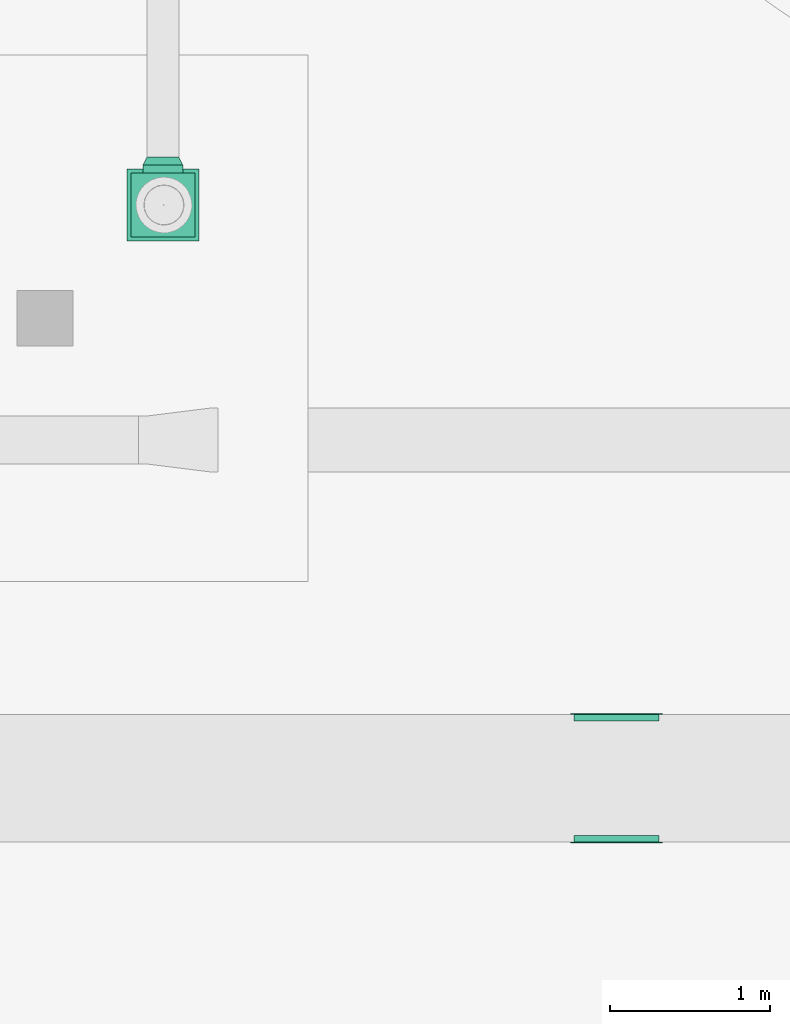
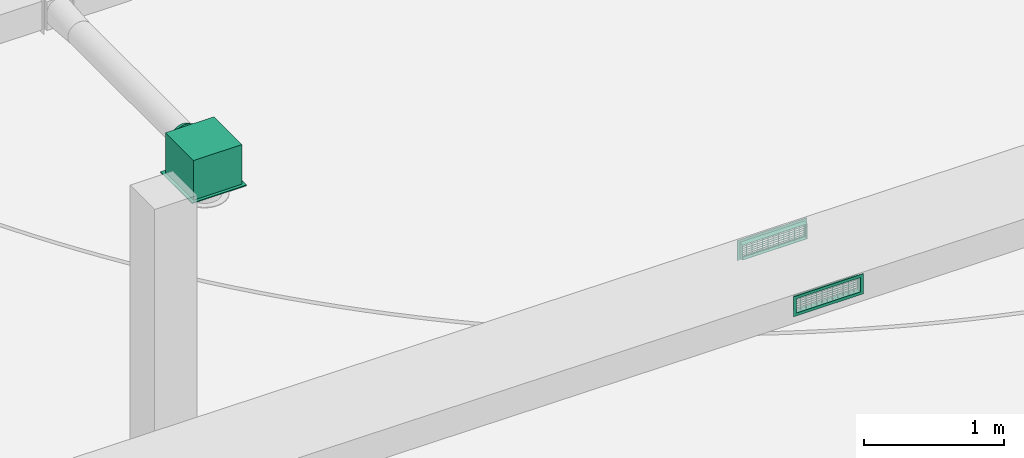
# One storey, part 271 of 302: 3 flow terminals, 1 flow fitting.
"""IFC2X3 building model written with IfcOpenShell, lengths in metres."""

from ifc_helpers import new_model, entity, si_unit, converted_unit, derived_unit, direction, frame, frame_2d, origin, origin_2d_with_axis, place, context, subcontext, project, spatial, polyline, circle_curve, parameter, trimmed, segment, composite_curve, rectangle, circle, outline, extrude, faceted_brep, source, transform, mapped, material, material_list, type_object, type_shapes, element, save


model = new_model("IFC2X3")

# Units and contexts
model_context = context("Model", 3, precision=1e-05, world=origin(), true_north=direction((6.12303176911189e-17, 1.0)))
body_context = subcontext(model_context, "Body", "Model", "MODEL_VIEW")
ifc_project = project(units=[si_unit("LENGTHUNIT", "METRE"), si_unit("AREAUNIT", "SQUARE_METRE"), si_unit("VOLUMEUNIT", "CUBIC_METRE"), converted_unit("PLANEANGLEUNIT", "DEGREE", entity("IfcRatioMeasure", 0.0174532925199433), si_unit("PLANEANGLEUNIT", "RADIAN"), dimensions=[0, 0, 0, 0, 0, 0, 0]), si_unit("MASSUNIT", "GRAM", prefix="KILO"), derived_unit("MASSDENSITYUNIT", [(si_unit("MASSUNIT", "GRAM", prefix="KILO"), 1), (si_unit("LENGTHUNIT", "METRE"), -3)]), derived_unit("MOMENTOFINERTIAUNIT", [(si_unit("LENGTHUNIT", "METRE"), 4)]), si_unit("TIMEUNIT", "SECOND"), si_unit("FREQUENCYUNIT", "HERTZ"), si_unit("THERMODYNAMICTEMPERATUREUNIT", "DEGREE_CELSIUS"), derived_unit("THERMALTRANSMITTANCEUNIT", [(si_unit("MASSUNIT", "GRAM", prefix="KILO"), 1), (si_unit("THERMODYNAMICTEMPERATUREUNIT", "KELVIN"), -1), (si_unit("TIMEUNIT", "SECOND"), -3)]), derived_unit("VOLUMETRICFLOWRATEUNIT", [(si_unit("LENGTHUNIT", "METRE"), 3), (si_unit("TIMEUNIT", "SECOND"), -1)]), si_unit("ELECTRICCURRENTUNIT", "AMPERE"), si_unit("ELECTRICVOLTAGEUNIT", "VOLT"), si_unit("POWERUNIT", "WATT"), si_unit("FORCEUNIT", "NEWTON", prefix="KILO"), si_unit("ILLUMINANCEUNIT", "LUX"), si_unit("LUMINOUSFLUXUNIT", "LUMEN"), si_unit("LUMINOUSINTENSITYUNIT", "CANDELA"), derived_unit("USERDEFINED", [(si_unit("MASSUNIT", "GRAM", prefix="KILO"), -1), (si_unit("LENGTHUNIT", "METRE"), -2), (si_unit("TIMEUNIT", "SECOND"), 3), (si_unit("LUMINOUSFLUXUNIT", "LUMEN"), 1)]), derived_unit("LINEARVELOCITYUNIT", [(si_unit("LENGTHUNIT", "METRE"), 1), (si_unit("TIMEUNIT", "SECOND"), -1)]), si_unit("PRESSUREUNIT", "PASCAL"), derived_unit("USERDEFINED", [(si_unit("LENGTHUNIT", "METRE"), -2), (si_unit("MASSUNIT", "GRAM", prefix="KILO"), 1), (si_unit("TIMEUNIT", "SECOND"), -2)]), derived_unit("LINEARFORCEUNIT", [(si_unit("MASSUNIT", "GRAM", prefix="KILO"), 1), (si_unit("LENGTHUNIT", "METRE"), 1), (si_unit("TIMEUNIT", "SECOND"), -2), (si_unit("LENGTHUNIT", "METRE"), -1)]), derived_unit("PLANARFORCEUNIT", [(si_unit("MASSUNIT", "GRAM", prefix="KILO"), 1), (si_unit("LENGTHUNIT", "METRE"), 1), (si_unit("TIMEUNIT", "SECOND"), -2), (si_unit("LENGTHUNIT", "METRE"), -2)])], contexts=[model_context])

# Site, building, storey
site_placement = place(None, origin())
site = spatial("IfcSite", under=ifc_project, at=site_placement, Name="Default", CompositionType="ELEMENT")
building_placement = place(site_placement, origin())
building = spatial("IfcBuilding", under=site, at=building_placement, CompositionType="ELEMENT")
storey_placement = place(building_placement, frame((0.0, 0.0, -1.3)))
storey = spatial("IfcBuildingStorey", under=building, at=storey_placement, Name="00_EG", CompositionType="ELEMENT", Elevation=-1.3)

# Flow fitting
ifc_material = material(Name="<Unnamed>")
duct_fitting_type = type_object("IfcDuctFittingType", Name="STR_RND_Transition:STR_Transition_RND_GS_EA", PredefinedType="NOTDEFINED", material=ifc_material)
shared_shape_1 = source(origin(), body_context, "Body", "Brep", [
    faceted_brep([(0.0500000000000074, -0.073473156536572, -0.1011271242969), (0.0500000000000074, -0.0386271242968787, -0.118882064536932), (0.0500000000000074, 0.0, -0.12500000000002), (0.0500000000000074, 0.0386271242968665, -0.11888206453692), (0.0500000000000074, 0.073473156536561, -0.101127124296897), (0.0500000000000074, 0.101127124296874, -0.0734731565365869), (0.0500000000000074, 0.1188820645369, -0.038627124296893), (0.0500000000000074, 0.124999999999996, 0.0), (0.0500000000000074, 0.118882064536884, 0.0386271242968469), (0.0500000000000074, 0.101127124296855, 0.073473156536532), (0.0500000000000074, 0.0734731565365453, 0.101127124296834), (0.0500000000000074, 0.0386271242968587, 0.118882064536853), (0.0500000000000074, 0.0, 0.12499999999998), (0.0500000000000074, -0.0386271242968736, 0.118882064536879), (0.0500000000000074, -0.0734731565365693, 0.101127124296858), (0.0500000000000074, -0.101127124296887, 0.0734731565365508), (0.0500000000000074, -0.118882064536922, 0.0386271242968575), (0.0500000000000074, -0.125000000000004, 0.0), (0.0500000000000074, -0.118882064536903, -0.0386271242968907), (0.0500000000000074, -0.101127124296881, -0.0734731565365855), (0.0, 0.0309016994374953, -0.0951056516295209), (0.0, 0.0, -0.100000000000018), (0.0, -0.0309016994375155, -0.0951056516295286), (0.0, -0.0587785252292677, -0.0809016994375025), (0.0, -0.0809016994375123, -0.0587785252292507), (0.0, -0.0951056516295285, -0.0309016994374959), (0.0, -0.100000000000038, 0.0), (0.0, -0.0951056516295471, 0.0309016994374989), (0.0, -0.0809016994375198, 0.0587785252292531), (0.0, -0.058778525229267, 0.0809016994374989), (0.0, -0.0309016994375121, 0.0951056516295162), (0.0, 0.0, 0.0999999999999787), (0.0, 0.0309016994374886, 0.0951056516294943), (0.0, 0.0587785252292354, 0.0809016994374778), (0.0, 0.0809016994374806, 0.0587785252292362), (0.0, 0.0951056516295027, 0.0309016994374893), (0.0, 0.0999999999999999, 0.0), (0.0, 0.0951056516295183, -0.0309016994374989), (0.0, 0.0809016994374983, -0.0587785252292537), (0.0, 0.0587785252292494, -0.0809016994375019)], [[[0, 1, 2, 3, 4, 5, 6, 7, 8, 9, 10, 11, 12, 13, 14, 15, 16, 17, 18, 19]], [[20, 21, 22, 23, 24, 25, 26, 27, 28, 29, 30, 31, 32, 33, 34, 35, 36, 37, 38, 39]], [[35, 34, 9, 8]], [[36, 35, 8, 7]], [[34, 33, 10, 9]], [[10, 33, 32, 11]], [[11, 32, 31, 12]], [[30, 29, 14, 13]], [[31, 30, 13, 12]], [[29, 28, 15, 14]], [[15, 28, 27, 16]], [[16, 27, 26, 17]], [[25, 24, 19, 18]], [[26, 25, 18, 17]], [[24, 23, 0, 19]], [[0, 23, 22, 1]], [[1, 22, 21, 2]], [[20, 39, 4, 3]], [[21, 20, 3, 2]], [[39, 38, 5, 4]], [[5, 38, 37, 6]], [[6, 37, 36, 7]]]),
])
type_shapes(duct_fitting_type, [shared_shape_1])
flow_fitting_placement = place(storey_placement, frame((-255.983284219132, 36.4181484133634, 4.90999999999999), z_axis=(0.0, 0.0, 1.0), x_axis=(0.0, -1.0, 0.0)))
element("IfcFlowFitting", 1, at=flow_fitting_placement, inside=storey, type_object=duct_fitting_type, material=ifc_material, Name="STR_RND_Transition:STR_Transition_RND_GS_EA", ObjectType="STR_RND_Transition:STR_Transition_RND_GS_EA", context=body_context, shape_type="MappedRepresentation", body=[
    mapped(shared_shape_1, transform((0.0, 0.0, 0.0), scale=1.0)),
])

# Flow terminals
ifc_material_list_1 = material_list([ifc_material, ifc_material, ifc_material])
air_terminal_type_1 = type_object("IfcAirTerminalType", Name="Drallauslass Zuluft seitlich:600 quadratisch", PredefinedType="NOTDEFINED", material=ifc_material_list_1)
shared_shape_2 = source(origin(), body_context, "Body", "SweptSolid", [
    extrude(rectangle(XDim=0.450000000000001, YDim=0.449999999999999, at=origin_2d_with_axis()), frame((0.0, 0.0, 2.692), z_axis=(0.0, 0.0, 1.0), x_axis=(0.0, 1.0, 0.0)), (0.0, 0.0, 1.0), 0.00800000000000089),
    extrude(circle(Radius=0.125, at=frame_2d((1.22275294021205e-18, -5.41433564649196e-16), x_axis=(1.0, 0.0))), frame((-0.25, 0.0, 2.89500000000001), z_axis=(1.0, 0.0, 0.0), x_axis=(0.0, -1.0, 0.0)), (0.0, 0.0, 1.0), 0.0499999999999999),
    extrude(rectangle(XDim=0.4, YDim=0.399999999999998, at=origin_2d_with_axis()), frame((0.0, 0.0, 2.7), z_axis=(0.0, 0.0, 1.0), x_axis=(0.0, 1.0, 0.0)), (0.0, 0.0, 1.0), 0.345000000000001),
])
type_shapes(air_terminal_type_1, [shared_shape_2])
flow_terminal_placement = place(storey_placement, frame((-255.983284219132, 36.1181484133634, 2.01499999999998), z_axis=(0.0, 0.0, 1.0), x_axis=(0.0, -1.0, 0.0)))
element("IfcFlowTerminal", 2, at=flow_terminal_placement, inside=storey, type_object=air_terminal_type_1, material=ifc_material, Name="Drallauslass Zuluft seitlich:600 quadratisch", ObjectType="Drallauslass Zuluft seitlich:600 quadratisch", context=body_context, shape_type="MappedRepresentation", body=[
    mapped(shared_shape_2, transform((0.0, 0.0, 0.0), scale=1.0)),
])
ifc_material_list_2 = material_list([ifc_material, ifc_material, ifc_material, ifc_material, ifc_material, ifc_material, ifc_material, ifc_material, ifc_material, ifc_material, ifc_material, ifc_material, ifc_material, ifc_material, ifc_material, ifc_material, ifc_material, ifc_material, ifc_material])
air_terminal_type_2 = type_object("IfcAirTerminalType", Name="Kanallüftungsgitter Abluft:525 x 125", PredefinedType="NOTDEFINED", material=ifc_material_list_2)
shared_shape_3 = source(origin(), body_context, "Body", "SweptSolid", [
    extrude(outline(composite_curve([segment(polyline([(-0.00289554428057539, -0.00148147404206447), (0.00423714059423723, -0.00148147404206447)]), True, "CONTINUOUS"), segment(polyline([(0.00423714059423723, -0.00148147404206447), (-0.00134159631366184, 0.00296294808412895)]), True, "CONTINUOUS"), segment(trimmed(circle_curve(frame_2d((-0.00255940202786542, 0.000894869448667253), x_axis=(0.330047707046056, 0.943964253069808)), 0.0024), [parameter(348.779604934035)], [parameter(191.220395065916)], True, "PARAMETER"), True, "CONTINUOUS")], self_intersect=False)), frame((-0.0293780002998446, -0.2625, 0.0446428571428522), z_axis=(0.0, 1.0, 0.0), x_axis=(-0.943964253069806, 0.0, 0.330047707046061)), (0.0, 0.0, 1.0), 0.525),
    extrude(outline(composite_curve([segment(polyline([(-0.00289554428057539, -0.00148147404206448), (0.00423714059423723, -0.00148147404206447)]), True, "CONTINUOUS"), segment(polyline([(0.00423714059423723, -0.00148147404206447), (-0.00134159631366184, 0.00296294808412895)]), True, "CONTINUOUS"), segment(trimmed(circle_curve(frame_2d((-0.00255940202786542, 0.000894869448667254), x_axis=(0.330047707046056, 0.943964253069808)), 0.0024), [parameter(348.779604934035)], [parameter(191.220395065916)], True, "PARAMETER"), True, "CONTINUOUS")], self_intersect=False)), frame((-0.0293780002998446, -0.2625, 0.0267857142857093), z_axis=(0.0, 1.0, 0.0), x_axis=(-0.943964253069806, 0.0, 0.330047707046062)), (0.0, 0.0, 1.0), 0.525),
    extrude(outline(composite_curve([segment(polyline([(-0.00289554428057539, -0.00148147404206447), (0.00423714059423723, -0.00148147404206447)]), True, "CONTINUOUS"), segment(polyline([(0.00423714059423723, -0.00148147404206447), (-0.00134159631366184, 0.00296294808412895)]), True, "CONTINUOUS"), segment(trimmed(circle_curve(frame_2d((-0.00255940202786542, 0.000894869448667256), x_axis=(0.330047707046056, 0.943964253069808)), 0.0024), [parameter(348.779604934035)], [parameter(191.220395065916)], True, "PARAMETER"), True, "CONTINUOUS")], self_intersect=False)), frame((-0.0293780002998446, -0.2625, 0.00892857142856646), z_axis=(0.0, 1.0, 0.0), x_axis=(-0.943964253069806, 0.0, 0.330047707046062)), (0.0, 0.0, 1.0), 0.525),
    extrude(outline(composite_curve([segment(polyline([(-0.00289554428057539, -0.00148147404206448), (0.00423714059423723, -0.00148147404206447)]), True, "CONTINUOUS"), segment(polyline([(0.00423714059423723, -0.00148147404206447), (-0.00134159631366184, 0.00296294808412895)]), True, "CONTINUOUS"), segment(trimmed(circle_curve(frame_2d((-0.00255940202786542, 0.000894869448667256), x_axis=(0.330047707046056, 0.943964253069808)), 0.0024), [parameter(348.779604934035)], [parameter(191.220395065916)], True, "PARAMETER"), True, "CONTINUOUS")], self_intersect=False)), frame((-0.0293780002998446, -0.2625, -0.00892857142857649), z_axis=(0.0, 1.0, 0.0), x_axis=(-0.943964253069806, 0.0, 0.330047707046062)), (0.0, 0.0, 1.0), 0.525),
    extrude(outline(composite_curve([segment(polyline([(-0.00289554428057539, -0.00148147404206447), (0.00423714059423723, -0.00148147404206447)]), True, "CONTINUOUS"), segment(polyline([(0.00423714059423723, -0.00148147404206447), (-0.00134159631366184, 0.00296294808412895)]), True, "CONTINUOUS"), segment(trimmed(circle_curve(frame_2d((-0.00255940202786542, 0.000894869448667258), x_axis=(0.330047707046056, 0.943964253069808)), 0.0024), [parameter(348.779604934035)], [parameter(191.220395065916)], True, "PARAMETER"), True, "CONTINUOUS")], self_intersect=False)), frame((-0.0293780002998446, -0.2625, -0.0267857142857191), z_axis=(0.0, 1.0, 0.0), x_axis=(-0.943964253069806, 0.0, 0.330047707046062)), (0.0, 0.0, 1.0), 0.525),
    extrude(outline(composite_curve([segment(polyline([(-0.00289554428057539, -0.00148147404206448), (0.00423714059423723, -0.00148147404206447)]), True, "CONTINUOUS"), segment(polyline([(0.00423714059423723, -0.00148147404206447), (-0.00134159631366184, 0.00296294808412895)]), True, "CONTINUOUS"), segment(trimmed(circle_curve(frame_2d((-0.00255940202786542, 0.000894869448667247), x_axis=(0.330047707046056, 0.943964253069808)), 0.0024), [parameter(348.779604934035)], [parameter(191.220395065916)], True, "PARAMETER"), True, "CONTINUOUS")], self_intersect=False)), frame((-0.0293780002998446, -0.2625, -0.0446428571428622), z_axis=(0.0, 1.0, 0.0), x_axis=(-0.943964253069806, 0.0, 0.330047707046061)), (0.0, 0.0, 1.0), 0.525),
    extrude(outline(composite_curve([segment(trimmed(circle_curve(frame_2d((0.0, -0.00271133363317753), x_axis=(1.0, 0.0)), 0.0024), [parameter(168.779604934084)], [parameter(11.2203950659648)], True, "PARAMETER"), True, "CONTINUOUS"), segment(polyline([(0.00235412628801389, -0.00224433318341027), (0.0, 0.00448866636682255)]), True, "CONTINUOUS"), segment(polyline([(0.0, 0.00448866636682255), (-0.00235412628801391, -0.00224433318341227)]), True, "CONTINUOUS")], self_intersect=False)), frame((-0.0160446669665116, 0.218750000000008, -0.0625), z_axis=(0.0, 0.0, 1.0), x_axis=(0.0, 1.0, 0.0)), (0.0, 0.0, 1.0), 0.125),
    extrude(outline(composite_curve([segment(trimmed(circle_curve(frame_2d((0.0, -0.00271133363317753), x_axis=(1.0, 0.0)), 0.0024), [parameter(168.779604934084)], [parameter(11.2203950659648)], True, "PARAMETER"), True, "CONTINUOUS"), segment(polyline([(0.00235412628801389, -0.00224433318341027), (0.0, 0.00448866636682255)]), True, "CONTINUOUS"), segment(polyline([(0.0, 0.00448866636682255), (-0.00235412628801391, -0.00224433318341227)]), True, "CONTINUOUS")], self_intersect=False)), frame((-0.0160446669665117, 0.175000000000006, -0.0625), z_axis=(0.0, 0.0, 1.0), x_axis=(0.0, 1.0, 0.0)), (0.0, 0.0, 1.0), 0.125),
    extrude(outline(composite_curve([segment(trimmed(circle_curve(frame_2d((0.0, -0.00271133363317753), x_axis=(1.0, 0.0)), 0.0024), [parameter(168.779604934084)], [parameter(11.2203950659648)], True, "PARAMETER"), True, "CONTINUOUS"), segment(polyline([(0.00235412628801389, -0.00224433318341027), (0.0, 0.00448866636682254)]), True, "CONTINUOUS"), segment(polyline([(0.0, 0.00448866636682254), (-0.00235412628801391, -0.00224433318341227)]), True, "CONTINUOUS")], self_intersect=False)), frame((-0.0160446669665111, 0.131250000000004, -0.0625), z_axis=(0.0, 0.0, 1.0), x_axis=(0.0, 1.0, 0.0)), (0.0, 0.0, 1.0), 0.125),
    extrude(outline(composite_curve([segment(trimmed(circle_curve(frame_2d((0.0, -0.00271133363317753), x_axis=(1.0, 0.0)), 0.0024), [parameter(168.779604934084)], [parameter(11.2203950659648)], True, "PARAMETER"), True, "CONTINUOUS"), segment(polyline([(0.00235412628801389, -0.00224433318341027), (0.0, 0.00448866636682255)]), True, "CONTINUOUS"), segment(polyline([(0.0, 0.00448866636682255), (-0.0023541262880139, -0.00224433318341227)]), True, "CONTINUOUS")], self_intersect=False)), frame((-0.0160446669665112, 0.0875000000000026, -0.0624999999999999), z_axis=(0.0, 0.0, 1.0), x_axis=(0.0, 1.0, 0.0)), (0.0, 0.0, 1.0), 0.125),
    extrude(outline(composite_curve([segment(trimmed(circle_curve(frame_2d((0.0, -0.00271133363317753), x_axis=(1.0, 0.0)), 0.0024), [parameter(168.779604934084)], [parameter(11.2203950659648)], True, "PARAMETER"), True, "CONTINUOUS"), segment(polyline([(0.00235412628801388, -0.00224433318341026), (0.0, 0.00448866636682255)]), True, "CONTINUOUS"), segment(polyline([(0.0, 0.00448866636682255), (-0.00235412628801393, -0.00224433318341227)]), True, "CONTINUOUS")], self_intersect=False)), frame((-0.0160446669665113, 0.0437500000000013, -0.0624999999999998), z_axis=(0.0, 0.0, 1.0), x_axis=(0.0, 1.0, 0.0)), (0.0, 0.0, 1.0), 0.125),
    extrude(outline(composite_curve([segment(trimmed(circle_curve(frame_2d((0.0, -0.00271133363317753), x_axis=(1.0, 0.0)), 0.0024), [parameter(168.779604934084)], [parameter(11.2203950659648)], True, "PARAMETER"), True, "CONTINUOUS"), segment(polyline([(0.00235412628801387, -0.00224433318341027), (0.0, 0.00448866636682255)]), True, "CONTINUOUS"), segment(polyline([(0.0, 0.00448866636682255), (-0.00235412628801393, -0.00224433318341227)]), True, "CONTINUOUS")], self_intersect=False)), frame((-0.0160446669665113, 0.0, -0.0624999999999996), z_axis=(0.0, 0.0, 1.0), x_axis=(0.0, 1.0, 0.0)), (0.0, 0.0, 1.0), 0.125),
    extrude(outline(composite_curve([segment(trimmed(circle_curve(frame_2d((0.0, -0.00271133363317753), x_axis=(1.0, 0.0)), 0.0024), [parameter(168.779604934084)], [parameter(11.2203950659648)], True, "PARAMETER"), True, "CONTINUOUS"), segment(polyline([(0.00235412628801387, -0.00224433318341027), (0.0, 0.00448866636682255)]), True, "CONTINUOUS"), segment(polyline([(0.0, 0.00448866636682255), (-0.00235412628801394, -0.00224433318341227)]), True, "CONTINUOUS")], self_intersect=False)), frame((-0.0160446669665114, -0.0437499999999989, -0.0624999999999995), z_axis=(0.0, 0.0, 1.0), x_axis=(0.0, 1.0, 0.0)), (0.0, 0.0, 1.0), 0.125),
    extrude(outline(composite_curve([segment(trimmed(circle_curve(frame_2d((0.0, -0.00271133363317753), x_axis=(1.0, 0.0)), 0.0024), [parameter(168.779604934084)], [parameter(11.2203950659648)], True, "PARAMETER"), True, "CONTINUOUS"), segment(polyline([(0.00235412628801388, -0.00224433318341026), (0.0, 0.00448866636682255)]), True, "CONTINUOUS"), segment(polyline([(0.0, 0.00448866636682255), (-0.00235412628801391, -0.00224433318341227)]), True, "CONTINUOUS")], self_intersect=False)), frame((-0.0160446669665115, -0.0874999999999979, -0.0624999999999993), z_axis=(0.0, 0.0, 1.0), x_axis=(0.0, 1.0, 0.0)), (0.0, 0.0, 1.0), 0.125),
    extrude(outline(composite_curve([segment(trimmed(circle_curve(frame_2d((0.0, -0.00271133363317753), x_axis=(1.0, 0.0)), 0.0024), [parameter(168.779604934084)], [parameter(11.2203950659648)], True, "PARAMETER"), True, "CONTINUOUS"), segment(polyline([(0.00235412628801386, -0.00224433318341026), (0.0, 0.00448866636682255)]), True, "CONTINUOUS"), segment(polyline([(0.0, 0.00448866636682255), (-0.00235412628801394, -0.00224433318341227)]), True, "CONTINUOUS")], self_intersect=False)), frame((-0.0160446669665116, -0.131249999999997, -0.0624999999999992), z_axis=(0.0, 0.0, 1.0), x_axis=(0.0, 1.0, 0.0)), (0.0, 0.0, 1.0), 0.125),
    extrude(outline(composite_curve([segment(trimmed(circle_curve(frame_2d((0.0, -0.00271133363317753), x_axis=(1.0, 0.0)), 0.0024), [parameter(168.779604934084)], [parameter(11.2203950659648)], True, "PARAMETER"), True, "CONTINUOUS"), segment(polyline([(0.00235412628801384, -0.00224433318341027), (0.0, 0.00448866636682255)]), True, "CONTINUOUS"), segment(polyline([(0.0, 0.00448866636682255), (-0.00235412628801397, -0.00224433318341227)]), True, "CONTINUOUS")], self_intersect=False)), frame((-0.0160446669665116, -0.174999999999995, -0.062499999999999), z_axis=(0.0, 0.0, 1.0), x_axis=(0.0, 1.0, 0.0)), (0.0, 0.0, 1.0), 0.125),
    extrude(outline(composite_curve([segment(trimmed(circle_curve(frame_2d((0.0, -0.00271133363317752), x_axis=(1.0, 0.0)), 0.0024), [parameter(168.779604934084)], [parameter(11.2203950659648)], True, "PARAMETER"), True, "CONTINUOUS"), segment(polyline([(0.00235412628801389, -0.00224433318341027), (0.0, 0.00448866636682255)]), True, "CONTINUOUS"), segment(polyline([(0.0, 0.00448866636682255), (-0.00235412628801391, -0.00224433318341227)]), True, "CONTINUOUS")], self_intersect=False)), frame((-0.0160446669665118, -0.218749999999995, -0.0624999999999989), z_axis=(0.0, 0.0, 1.0), x_axis=(0.0, 1.0, 0.0)), (0.0, 0.0, 1.0), 0.125),
    extrude(outline(polyline([(-0.0665, -0.2665), (0.0665, -0.2665), (0.0665, 0.2665), (-0.0665, 0.2665), (-0.0665, -0.2665)]), holes=[polyline([(-0.0625000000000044, -0.2625), (-0.0625000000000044, 0.262499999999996), (0.062500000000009, 0.262499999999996), (0.062500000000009, -0.2625), (-0.0625000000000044, -0.2625)])]), frame((-0.04, 0.0, 0.0), z_axis=(1.0, 0.0, 0.0), x_axis=(0.0, 0.0, -1.0)), (0.0, 0.0, 1.0), 0.04),
    extrude(outline(polyline([(-0.0875, -0.2875), (0.0875, -0.2875), (0.0875, 0.2875), (-0.0875, 0.2875), (-0.0875, -0.2875)]), holes=[polyline([(-0.0625, -0.262499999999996), (-0.0625, 0.262500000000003), (0.0625000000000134, 0.262500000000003), (0.0625000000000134, -0.262499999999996), (-0.0625, -0.262499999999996)])]), frame((0.0, 0.0, 0.0), z_axis=(1.0, 0.0, 0.0), x_axis=(0.0, 0.0, -1.0)), (0.0, 0.0, 1.0), 0.005),
])
type_shapes(air_terminal_type_2, [shared_shape_3])
for number, where, z_axis, x_axis, name in (
    (3, (-253.140026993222, 32.9240784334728, 5.125), (0.0, 0.0, -1.0), (0.0, 1.0, 0.0), "Kanallüftungsgitter Abluft:525 x 125"),
    (4, (-253.140026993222, 32.1240784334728, 5.125), (0.0, 0.0, 1.0), (0.0, -1.0, 0.0), "Kanallüftungsgitter Abluft:525 x 125"),
):
    element("IfcFlowTerminal", number, at=place(storey_placement, frame(where, z_axis=z_axis, x_axis=x_axis)), inside=storey, type_object=air_terminal_type_2, material=ifc_material, Name=name, ObjectType="Kanallüftungsgitter Abluft:525 x 125", context=body_context, shape_type="MappedRepresentation", body=[
        mapped(shared_shape_3, transform((0.0, 0.0, 0.0), scale=1.0)),
    ])

save(model, "model.ifc")
